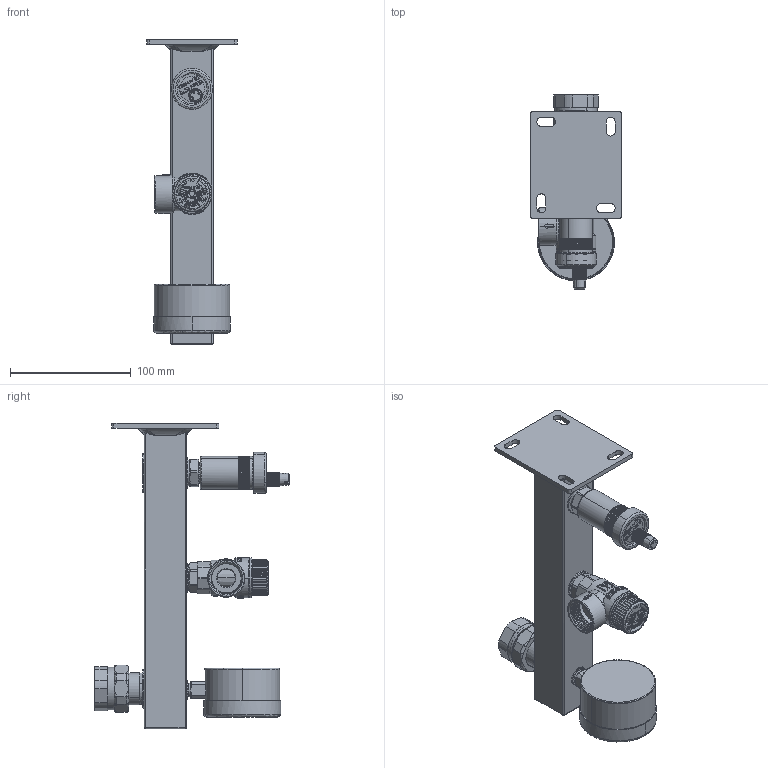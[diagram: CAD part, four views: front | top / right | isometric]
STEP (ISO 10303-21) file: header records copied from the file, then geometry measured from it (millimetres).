
FILE_DESCRIPTION (( 'STEP AP214' ), '1' );
FILE_NAME ('9061100.STEP', '2022-08-16T09:52:38', ( '' ), ( '' ), 'SwSTEP 2.0', 'SolidWorks 2022', '' );
FILE_SCHEMA (( 'AUTOMOTIVE_DESIGN' ));
Length unit declared in the file: millimetre
Products named in the file (26): DOMS; Nakrętka G1; 50705499; 9061100; 05 00 280034_Schraubkappe SE Aquastop; Szybkozlacze_BSS; 801 014 1780_O-Ring  _X_F814x1.78 mm EPDM; 52205500; 77219_air-vent_MV-R12; 05 00 250320_Ventilgeh_X_E4use MV G3_8ixR1_2a SW22x20_ Ms; 801 024 2002_O-Ring  _X_F824.00x2.00mm EPDM; 05 00 280011_Deckel Schnellentl_X_FCfter; manometr; Schnellentl_X_FCfter MS G3_8 Aquastop_05 00 21 13; 30005562; 760 000 0169_Quellscheibe _X_F87x_X_F82,5x0,5; 5002 - 12x34 - 10005350; 90005350; 51605500; Geh_X_E4use Schnellentl_X_FCfter_05 00 210013; _X_DCberwurfmutter M32x1,5_05 00 210014; 30915205; Część2; Część1; BSS_Korpus; 53605130
Assembly tree (33 placements, depth 4):
  9061100
    BSS_Korpus
    77219_air-vent_MV-R12
      Schnellentl_X_FCfter MS G3_8 Aquastop_05 00 21 13
        801 024 2002_O-Ring  _X_F824.00x2.00mm EPDM
        _X_DCberwurfmutter M32x1,5_05 00 210014
        801 014 1780_O-Ring  _X_F814x1.78 mm EPDM
        760 000 0169_Quellscheibe _X_F87x_X_F82,5x0,5  x9
        Geh_X_E4use Schnellentl_X_FCfter_05 00 210013
        05 00 280011_Deckel Schnellentl_X_FCfter
        05 00 280034_Schraubkappe SE Aquastop
      05 00 250320_Ventilgeh_X_E4use MV G3_8ixR1_2a SW22x20_ Ms
    5002 - 12x34 - 10005350
      90005350
        30005562
        30915205
        53605130
        51605500
        50705499
        52205500
    DOMS
    manometr
    Szybkozlacze_BSS
      Część1
      Część2
      Nakrętka G1
Bounding box: 75 x 161.24 x 253 mm (x, y, z)
Volume: 390578.7 mm3; surface area: 149290.9 mm2
Topology: 28 solids, 37 shells, 3750 faces, 9844 edges, 6442 vertices
Faces by surface type: plane 1348, cylinder 1101, bspline 838, cone 429, torus 30, sphere 4
Entity records: 191188 total; most frequent: CARTESIAN_POINT 78074, ORIENTED_EDGE 18420, DIRECTION 13019, EDGE_CURVE 9210, VERTEX_POINT 6027, AXIS2_PLACEMENT_3D 4557, LINE 3905, VECTOR 3905
